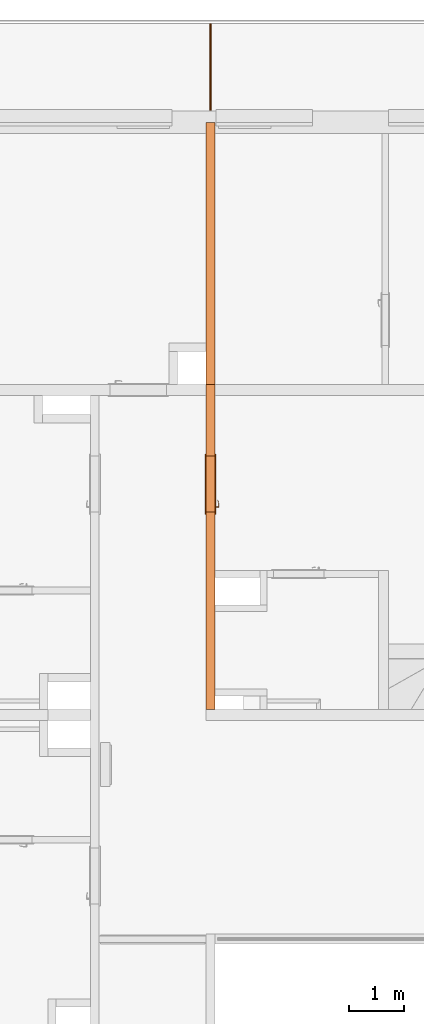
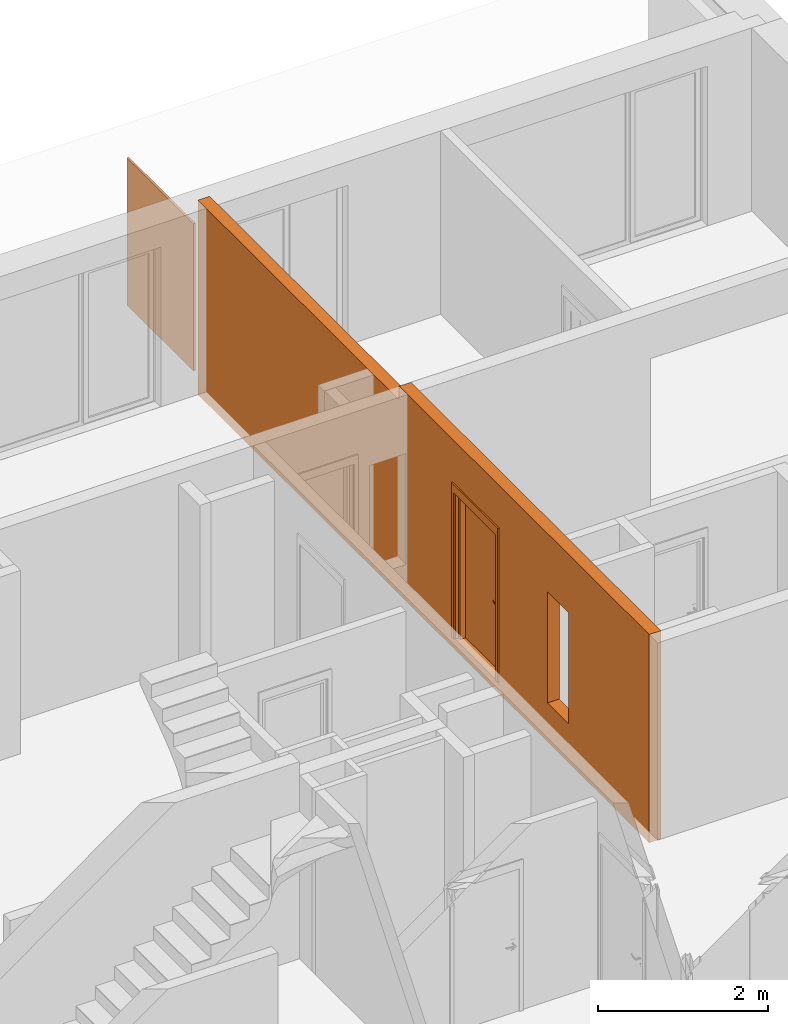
# One storey, part 29 of 61: 3 proxies, 2 openings.
"""IFC2X3 building model written with IfcOpenShell, lengths in millimetres."""

from ifc_helpers import new_model, entity, si_unit, converted_unit, derived_unit, money_unit, direction, frame, origin_with_axes, origin_2d_with_axis, place, context, subcontext, project, spatial, polyline, rectangle, outline, extrude, open_shell, faceted_brep, surface_model, source, transform, mapped, material, type_object, element, fill, save


model = new_model("IFC2X3")

# Units and contexts
model_context = context("Model", 3, precision=0.01, world=origin_with_axes(), true_north=direction((0.34421633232, 0.938890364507)))
body_context = subcontext(model_context, "Body", "Model", "MODEL_VIEW")
ifc_project = project(units=[si_unit("LENGTHUNIT", "METRE", prefix="MILLI"), si_unit("AREAUNIT", "SQUARE_METRE"), si_unit("VOLUMEUNIT", "CUBIC_METRE"), converted_unit("PLANEANGLEUNIT", "DEGREE", entity("IfcPlaneAngleMeasure", 0.0174532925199), si_unit("PLANEANGLEUNIT", "RADIAN"), dimensions=[0, 0, 0, 0, 0, 0, 0]), si_unit("SOLIDANGLEUNIT", "STERADIAN"), money_unit("USD"), converted_unit("TIMEUNIT", "Year", entity("IfcTimeMeasure", 31556926.0), si_unit("TIMEUNIT", "SECOND"), dimensions=[0, 0, 1, 0, 0, 0, 0]), si_unit("MASSUNIT", "GRAM", prefix="KILO"), si_unit("THERMODYNAMICTEMPERATUREUNIT", "DEGREE_CELSIUS"), si_unit("LUMINOUSINTENSITYUNIT", "LUMEN"), si_unit("ENERGYUNIT", "JOULE", prefix="MEGA"), derived_unit("THERMALCONDUCTANCEUNIT", [(si_unit("POWERUNIT", "WATT"), 1), (si_unit("LENGTHUNIT", "METRE"), -1), (si_unit("THERMODYNAMICTEMPERATUREUNIT", "KELVIN"), -1)]), derived_unit("SPECIFICHEATCAPACITYUNIT", [(si_unit("ENERGYUNIT", "JOULE"), 1), (si_unit("MASSUNIT", "GRAM", prefix="KILO"), -1), (si_unit("THERMODYNAMICTEMPERATUREUNIT", "KELVIN"), -1)]), derived_unit("MASSDENSITYUNIT", [(si_unit("MASSUNIT", "GRAM", prefix="KILO"), 1), (si_unit("VOLUMEUNIT", "CUBIC_METRE"), -1)])], contexts=[model_context])

# Site, building, storey
site_placement = place(None, origin_with_axes())
site = spatial("IfcSite", under=ifc_project, at=site_placement, Name="USTRONIE MORSKIE", CompositionType="ELEMENT")
building_placement = place(site_placement, origin_with_axes())
building = spatial("IfcBuilding", under=site, at=building_placement, Name="Budynek", CompositionType="ELEMENT")
storey_placement = place(building_placement, frame((0.0, 0.0, 13000.0), z_axis=(0.0, 0.0, 1.0), x_axis=(1.0, 0.0, 0.0)))
storey = spatial("IfcBuildingStorey", under=building, at=storey_placement, Name="PIĘTRO 4", CompositionType="ELEMENT", Elevation=13000.0)

# Proxies, openings
ifc_material_1 = material(Name="Beton konstrukcyjny B25")
building_element_proxy_type_1 = type_object("IfcBuildingElementProxyType", Name="Beton konstrukcyjny B25 160", PredefinedType="NOTDEFINED")
proxy_1_placement = place(storey_placement, frame((359617.920919, 749451.199036, -160.0), z_axis=(0.0, 0.0, 1.0), x_axis=(0.0, -1.0, 0.0)))
proxy_1 = element("IfcBuildingElementProxy", 1, at=proxy_1_placement, inside=storey, type_object=building_element_proxy_type_1, material=ifc_material_1, Name="SW-01", context=body_context, shape_type="Brep", body=[
    faceted_brep([(-100.0, -80.0, 2799.99999792), (0.0, -80.0, 2799.99999792), (0.0, 80.0, 2799.99999792), (-100.0, 80.0, 2799.99999792), (4650.0, -79.9973356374, 2799.99999792), (4200.00085142, -79.9973573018, 2799.99999792), (-100.0, -80.0, 0.0), (10550.0, -80.0, 0.0), (10550.0, -80.0, 3000.0), (4650.0, -79.9973356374, 2999.99999792), (4650.0, 80.0, 2799.99999792), (4650.0, 80.0, 2999.99999792), (10550.0, 80.0, 3000.0), (10550.0, 80.0, 0.0), (-100.0, 80.0, 0.0)], [[[0, 1, 2, 3]], [[4, 5, 1, 0, 6, 7, 8, 9]], [[10, 2, 1, 5, 4]], [[3, 2, 10, 11, 12, 13, 14]], [[14, 6, 0, 3]], [[13, 7, 6, 14]], [[8, 7, 13, 12]], [[12, 11, 9, 8]], [[4, 9, 11, 10]]]),
])
opening_1_placement = place(proxy_1_placement, frame((6460.00039682, 0.0, 160.0), z_axis=(0.0, 0.0, 1.0), x_axis=(1.0, 0.0, 0.0)))
opening_1 = element("IfcOpeningElement", 2, at=opening_1_placement, cuts=proxy_1, Name="Dw.1", context=body_context, shape_type="SweptSolid", body=[
    extrude(rectangle(XDim=1020.0, YDim=2120.0, at=origin_2d_with_axis()), frame((0.0, -160.0, 1060.0), z_axis=(0.0, -1.0, 0.0), x_axis=(-1.0, 0.0, 0.0)), (0.0, 0.0, -1.0), 480.0),
    extrude(rectangle(XDim=1094.0, YDim=2227.0, at=origin_2d_with_axis()), frame((0.0, -80.0, 1113.5), z_axis=(0.0, -1.0, 0.0), x_axis=(-1.0, 0.0, 0.0)), (0.0, 0.0, 1.0), 160.0),
    extrude(rectangle(XDim=1094.0, YDim=2227.0, at=origin_2d_with_axis()), frame((0.0, 80.0, 1113.5), z_axis=(0.0, 1.0, 0.0), x_axis=(-1.0, 0.0, 0.0)), (0.0, 0.0, 1.0), 160.0),
])
opening_2_placement = place(proxy_1_placement, frame((8400.01956701, 0.0, 560.0), z_axis=(0.0, 0.0, 1.0), x_axis=(1.0, 0.0, 0.0)))
element("IfcOpeningElement", 3, at=opening_2_placement, cuts=proxy_1, Name="R.01", context=body_context, shape_type="SweptSolid", body=[
    extrude(rectangle(XDim=500.001816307, YDim=1600.0, at=origin_2d_with_axis()), frame((0.0, -80.0, 800.0), z_axis=(0.0, 1.0, 0.0), x_axis=(1.0, 0.0, 0.0)), (0.0, 0.0, -1.0), 160.0),
    extrude(rectangle(XDim=500.001816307, YDim=1600.0, at=origin_2d_with_axis()), frame((0.0, -80.0, 800.0), z_axis=(0.0, -1.0, 0.0), x_axis=(1.0, 0.0, 0.0)), (0.0, 0.0, -1.0), 160.0),
])
building_element_proxy_type_2 = type_object("IfcBuildingElementProxyType", Name="Drzwi 23", PredefinedType="NOTDEFINED")
shared_shape = source(origin_with_axes(), body_context, "Body", "SurfaceModel", [
    faceted_brep([(510.0, -115.0, 0.0), (510.0, -160.0, 0.0), (485.0, -160.0, 0.0), (485.0, -115.0, 0.0), (510.0, -115.0, 2120.0), (510.0, -160.0, 2120.0), (485.0, -160.0, 2095.0), (485.0, -115.0, 2095.0)], [[[0, 1, 2, 3]], [[4, 5, 1, 0]], [[1, 5, 6, 2]], [[3, 2, 6, 7]], [[0, 3, 7, 4]], [[7, 6, 5, 4]]]),
    faceted_brep([(-510.0, -115.0, 2120.0), (-510.0, -160.0, 2120.0), (-485.0, -160.0, 2095.0), (-485.0, -115.0, 2095.0), (-510.0, -115.0, 0.0), (-510.0, -160.0, 0.0), (-485.0, -160.0, 0.0), (-485.0, -115.0, 0.0)], [[[0, 1, 2, 3]], [[4, 5, 1, 0]], [[1, 5, 6, 2]], [[3, 2, 6, 7]], [[0, 3, 7, 4]], [[7, 6, 5, 4]]]),
    faceted_brep([(485.0, -115.0, 2095.0), (485.0, -160.0, 2095.0), (-485.0, -160.0, 2095.0), (-485.0, -115.0, 2095.0), (510.0, -115.0, 2120.0), (510.0, -160.0, 2120.0), (-510.0, -160.0, 2120.0), (-510.0, -115.0, 2120.0)], [[[0, 1, 2, 3]], [[4, 5, 1, 0]], [[1, 5, 6, 2]], [[3, 2, 6, 7]], [[0, 3, 7, 4]], [[7, 6, 5, 4]]]),
    faceted_brep([(547.0, -179.0, 0.0), (497.0, -179.0, 0.0), (497.0, -160.0, 0.0), (547.0, -160.0, 0.0), (547.0, -179.0, 2227.0), (497.0, -179.0, 2107.0), (497.0, -160.0, 2107.0), (547.0, -160.0, 2227.0)], [[[0, 1, 2, 3]], [[0, 4, 5, 1]], [[1, 5, 6, 2]], [[3, 2, 6, 7]], [[4, 0, 3, 7]], [[5, 4, 7, 6]]]),
    faceted_brep([(-547.0, -179.0, 2227.0), (-497.0, -179.0, 2107.0), (-497.0, -160.0, 2107.0), (-547.0, -160.0, 2227.0), (-547.0, -179.0, 0.0), (-497.0, -179.0, 0.0), (-497.0, -160.0, 0.0), (-547.0, -160.0, 0.0)], [[[0, 1, 2, 3]], [[0, 4, 5, 1]], [[1, 5, 6, 2]], [[3, 2, 6, 7]], [[4, 0, 3, 7]], [[5, 4, 7, 6]]]),
    faceted_brep([(547.0, -179.0, 2227.0), (497.0, -179.0, 2107.0), (497.0, -160.0, 2107.0), (547.0, -160.0, 2227.0), (-547.0, -179.0, 2227.0), (-497.0, -179.0, 2107.0), (-497.0, -160.0, 2107.0), (-547.0, -160.0, 2227.0)], [[[0, 1, 2, 3]], [[0, 4, 5, 1]], [[1, 5, 6, 2]], [[3, 2, 6, 7]], [[4, 0, 3, 7]], [[5, 4, 7, 6]]]),
    faceted_brep([(547.0, 19.0, 0.0), (547.0, 0.0, 0.0), (497.0, 0.0, 0.0), (497.0, 19.0, 0.0), (547.0, 19.0, 2227.0), (547.0, 0.0, 2227.0), (497.0, 0.0, 2107.0), (497.0, 19.0, 2107.0)], [[[0, 1, 2, 3]], [[4, 5, 1, 0]], [[1, 5, 6, 2]], [[3, 2, 6, 7]], [[0, 3, 7, 4]], [[7, 6, 5, 4]]]),
    faceted_brep([(-547.0, 19.0, 2227.0), (-547.0, 0.0, 2227.0), (-497.0, 0.0, 2107.0), (-497.0, 19.0, 2107.0), (-547.0, 19.0, 0.0), (-547.0, 0.0, 0.0), (-497.0, 0.0, 0.0), (-497.0, 19.0, 0.0)], [[[0, 1, 2, 3]], [[4, 5, 1, 0]], [[1, 5, 6, 2]], [[3, 2, 6, 7]], [[0, 3, 7, 4]], [[7, 6, 5, 4]]]),
    faceted_brep([(547.0, 19.0, 2227.0), (547.0, 0.0, 2227.0), (497.0, 0.0, 2107.0), (497.0, 19.0, 2107.0), (-547.0, 19.0, 2227.0), (-547.0, 0.0, 2227.0), (-497.0, 0.0, 2107.0), (-497.0, 19.0, 2107.0)], [[[0, 1, 2, 3]], [[4, 5, 1, 0]], [[1, 5, 6, 2]], [[3, 2, 6, 7]], [[0, 3, 7, 4]], [[7, 6, 5, 4]]]),
    faceted_brep([(450.0, -40.0, 0.0), (450.0, -115.0, 0.0), (450.0, -115.0, 2050.0), (450.0, -40.0, 2050.0), (462.0, -40.0, 0.0), (462.0, 0.0, 0.0), (510.0, 0.0, 0.0), (510.0, -115.0, 0.0), (510.0, -115.0, 2050.0), (462.0, -40.0, 2050.0), (510.0, 0.0, 2050.0), (462.0, 0.0, 2050.0)], [[[0, 1, 2, 3]], [[4, 5, 6, 7, 1, 0]], [[1, 7, 8, 2]], [[9, 3, 2, 8, 10, 11]], [[9, 4, 0, 3]], [[11, 5, 4, 9]], [[11, 10, 6, 5]], [[6, 10, 8, 7]]]),
    faceted_brep([(-462.0, -40.0, 2050.0), (-462.0, 0.0, 2050.0), (-510.0, 0.0, 2050.0), (-510.0, -115.0, 2050.0), (-450.0, -115.0, 2050.0), (-450.0, -40.0, 2050.0), (-462.0, -40.0, 0.0), (-462.0, 0.0, 0.0), (-510.0, 0.0, 0.0), (-510.0, -115.0, 0.0), (-450.0, -115.0, 0.0), (-450.0, -40.0, 0.0)], [[[0, 1, 2, 3, 4, 5]], [[0, 6, 7, 1]], [[7, 8, 2, 1]], [[2, 8, 9, 3]], [[3, 9, 10, 4]], [[5, 4, 10, 11]], [[5, 11, 6, 0]], [[6, 11, 10, 9, 8, 7]]]),
    faceted_brep([(462.0, 0.0, 2062.0), (-462.0, 0.0, 2062.0), (-462.0, 0.0, 2050.0), (-510.0, 0.0, 2050.0), (-510.0, 0.0, 2120.0), (510.0, 0.0, 2120.0), (510.0, 0.0, 2050.0), (462.0, 0.0, 2050.0), (462.0, -40.0, 2062.0), (-462.0, -40.0, 2062.0), (-462.0, -40.0, 2050.0), (-450.0, -40.0, 2050.0), (-450.0, -115.0, 2050.0), (-510.0, -115.0, 2050.0), (-510.0, -115.0, 2120.0), (510.0, -115.0, 2120.0), (510.0, -115.0, 2050.0), (462.0, -40.0, 2050.0), (450.0, -115.0, 2050.0), (450.0, -40.0, 2050.0)], [[[0, 1, 2, 3, 4, 5, 6, 7]], [[0, 8, 9, 1]], [[1, 9, 10, 2]], [[10, 11, 12, 13, 3, 2]], [[4, 3, 13, 14]], [[5, 4, 14, 15]], [[6, 5, 15, 16]], [[17, 7, 6, 16, 18, 19]], [[7, 17, 8, 0]], [[10, 9, 8, 17, 19, 11]], [[19, 18, 12, 11]], [[12, 18, 16, 15, 14, 13]]]),
    faceted_brep([(440.5, -40.0, 1060.0), (383.5, -40.0, 1060.0), (383.5, -43.0, 1060.0), (440.5, -43.0, 1060.0), (440.5, -40.0, 870.0), (383.5, -40.0, 870.0), (383.5, -43.0, 870.0), (440.5, -43.0, 870.0)], [[[0, 1, 2, 3]], [[0, 4, 5, 1]], [[1, 5, 6, 2]], [[3, 2, 6, 7]], [[4, 0, 3, 7]], [[5, 4, 7, 6]]]),
    faceted_brep([(412.0, -104.0, 990.0), (417.0, -104.0, 991.339745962), (417.0, -111.0, 991.339745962), (412.0, -111.0, 990.0), (387.0, -104.0, 990.0), (387.0, -104.0, 1010.0), (412.0, -104.0, 1010.0), (417.0, -104.0, 1008.66025404), (420.660254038, -104.0, 1005.0), (422.0, -104.0, 1000.0), (420.660254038, -104.0, 995.0), (420.660254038, -111.0, 995.0), (422.0, -111.0, 1000.0), (420.660254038, -111.0, 1005.0), (417.0, -111.0, 1008.66025404), (412.0, -111.0, 1010.0), (387.0, -111.0, 1010.0), (387.0, -111.0, 990.0)], [[[0, 1, 2, 3]], [[0, 4, 5, 6, 7, 8, 9, 10, 1]], [[1, 10, 11, 2]], [[3, 2, 11, 12, 13, 14, 15, 16, 17]], [[4, 0, 3, 17]], [[5, 4, 17, 16]], [[6, 5, 16, 15]], [[7, 6, 15, 14]], [[8, 7, 14, 13]], [[9, 8, 13, 12]], [[10, 9, 12, 11]]]),
    surface_model("IfcShellBasedSurfaceModel", [(387.0, -104.0, 1010.0), (373.901717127, -104.0, 1009.60730092), (373.596090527, -111.0, 1009.60730092), (387.0, -104.0, 990.0), (373.901717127, -104.0, 990.392699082), (346.890283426, -108.663544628, 1008.82190275), (387.0, -111.0, 1010.0), (387.0, -111.0, 990.0), (347.804837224, -101.716818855, 991.178097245), (347.804837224, -101.716818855, 1008.82190275), (346.890283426, -108.663544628, 991.178097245), (373.596090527, -111.0, 990.392699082), (322.006256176, -97.1678329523, 991.963495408), (322.006256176, -97.1678329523, 1008.03650459), (320.489735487, -104.008415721, 1008.03650459), (320.489735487, -104.008415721, 991.963495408), (296.702316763, -90.3876628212, 992.748893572), (296.702316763, -90.3876628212, 1007.25110643), (294.59537082, -97.0700416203, 1007.25110643), (294.59537082, -97.0700416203, 992.748893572), (288.829442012, -87.5221707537, 993.0), (288.829442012, -87.5221707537, 1007.0), (286.538795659, -94.1376880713, 1007.0), (286.538795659, -94.1376880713, 993.0)], [open_shell([[[0, 1, 2]], [[0, 3, 4, 1]], [[1, 5, 2]], [[0, 2, 6]], [[4, 3, 7]], [[1, 4, 8, 9]], [[1, 9, 5]], [[2, 5, 10, 11]], [[6, 2, 11, 7]], [[4, 7, 11]], [[8, 4, 11]], [[9, 8, 12, 13]], [[9, 14, 5]], [[5, 14, 15, 10]], [[8, 11, 10]], [[12, 8, 10]], [[13, 12, 16, 17]], [[9, 13, 14]], [[14, 18, 19, 15]], [[12, 10, 15]], [[16, 12, 15]], [[17, 16, 20, 21]], [[13, 17, 18]], [[13, 18, 14]], [[18, 22, 23, 19]], [[16, 15, 19]], [[20, 16, 19]], [[21, 20, 23, 22]], [[17, 21, 22]], [[17, 22, 18]], [[20, 19, 23]]])]),
    faceted_brep([(401.607695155, -53.0, 994.0), (400.0, -53.0, 1000.0), (399.0, -43.0, 1000.0), (400.741669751, -43.0, 993.5), (406.0, -53.0, 989.607695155), (412.0, -53.0, 988.0), (418.0, -53.0, 989.607695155), (422.392304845, -53.0, 994.0), (424.0, -53.0, 1000.0), (422.392304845, -53.0, 1006.0), (418.0, -53.0, 1010.39230485), (412.0, -53.0, 1012.0), (406.0, -53.0, 1010.39230485), (401.607695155, -53.0, 1006.0), (400.741669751, -43.0, 1006.5), (405.5, -43.0, 1011.25833025), (412.0, -43.0, 1013.0), (418.5, -43.0, 1011.25833025), (423.258330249, -43.0, 1006.5), (425.0, -43.0, 1000.0), (423.258330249, -43.0, 993.5), (418.5, -43.0, 988.741669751), (412.0, -43.0, 987.0), (405.5, -43.0, 988.741669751)], [[[0, 1, 2, 3]], [[1, 0, 4, 5, 6, 7, 8, 9, 10, 11, 12, 13]], [[1, 13, 14, 2]], [[2, 14, 15, 16, 17, 18, 19, 20, 21, 22, 23, 3]], [[4, 0, 3, 23]], [[5, 4, 23, 22]], [[6, 5, 22, 21]], [[7, 6, 21, 20]], [[8, 7, 20, 19]], [[9, 8, 19, 18]], [[10, 9, 18, 17]], [[11, 10, 17, 16]], [[12, 11, 16, 15]], [[13, 12, 15, 14]]]),
    faceted_brep([(394.679491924, -47.0, 895.0), (392.0, -47.0, 905.0), (390.0, -43.0, 905.0), (392.947441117, -43.0, 894.0), (402.0, -47.0, 887.679491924), (412.0, -47.0, 885.0), (422.0, -47.0, 887.679491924), (429.320508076, -47.0, 895.0), (432.0, -47.0, 905.0), (429.320508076, -47.0, 915.0), (422.0, -47.0, 922.320508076), (412.0, -47.0, 925.0), (402.0, -47.0, 922.320508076), (394.679491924, -47.0, 915.0), (392.947441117, -43.0, 916.0), (401.0, -43.0, 924.052558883), (412.0, -43.0, 927.0), (423.0, -43.0, 924.052558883), (431.052558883, -43.0, 916.0), (434.0, -43.0, 905.0), (431.052558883, -43.0, 894.0), (423.0, -43.0, 885.947441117), (412.0, -43.0, 883.0), (401.0, -43.0, 885.947441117)], [[[0, 1, 2, 3]], [[1, 0, 4, 5, 6, 7, 8, 9, 10, 11, 12, 13]], [[1, 13, 14, 2]], [[2, 14, 15, 16, 17, 18, 19, 20, 21, 22, 23, 3]], [[4, 0, 3, 23]], [[5, 4, 23, 22]], [[6, 5, 22, 21]], [[7, 6, 21, 20]], [[8, 7, 20, 19]], [[9, 8, 19, 18]], [[10, 9, 18, 17]], [[11, 10, 17, 16]], [[12, 11, 16, 15]], [[13, 12, 15, 14]]]),
    faceted_brep([(407.050252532, -49.0, 909.050252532), (405.0, -49.0, 914.0), (404.0, -47.0, 914.0), (406.343145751, -47.0, 908.343145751), (412.0, -49.0, 907.0), (416.949747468, -49.0, 909.050252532), (419.0, -49.0, 914.0), (416.949747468, -49.0, 918.949747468), (412.0, -49.0, 921.0), (407.050252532, -49.0, 918.949747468), (406.343145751, -47.0, 919.656854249), (412.0, -47.0, 922.0), (417.656854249, -47.0, 919.656854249), (420.0, -47.0, 914.0), (417.656854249, -47.0, 908.343145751), (412.0, -47.0, 906.0)], [[[0, 1, 2, 3]], [[1, 0, 4, 5, 6, 7, 8, 9]], [[1, 9, 10, 2]], [[2, 10, 11, 12, 13, 14, 15, 3]], [[4, 0, 3, 15]], [[5, 4, 15, 14]], [[6, 5, 14, 13]], [[7, 6, 13, 12]], [[8, 7, 12, 11]], [[9, 8, 11, 10]]]),
    faceted_brep([(412.0, -53.0, 1010.0), (407.0, -53.0, 1008.66025404), (407.0, -104.0, 1008.66025404), (412.0, -104.0, 1010.0), (417.0, -53.0, 1008.66025404), (420.660254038, -53.0, 1005.0), (422.0, -53.0, 1000.0), (420.660254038, -53.0, 995.0), (417.0, -53.0, 991.339745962), (412.0, -53.0, 990.0), (407.0, -53.0, 991.339745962), (403.339745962, -53.0, 995.0), (402.0, -53.0, 1000.0), (403.339745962, -53.0, 1005.0), (403.339745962, -104.0, 1005.0), (402.0, -104.0, 1000.0), (403.339745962, -104.0, 995.0), (407.0, -104.0, 991.339745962), (412.0, -104.0, 990.0), (417.0, -104.0, 991.339745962), (420.660254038, -104.0, 995.0), (422.0, -104.0, 1000.0), (420.660254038, -104.0, 1005.0), (417.0, -104.0, 1008.66025404)], [[[0, 1, 2, 3]], [[0, 4, 5, 6, 7, 8, 9, 10, 11, 12, 13, 1]], [[1, 13, 14, 2]], [[3, 2, 14, 15, 16, 17, 18, 19, 20, 21, 22, 23]], [[4, 0, 3, 23]], [[5, 4, 23, 22]], [[6, 5, 22, 21]], [[7, 6, 21, 20]], [[8, 7, 20, 19]], [[9, 8, 19, 18]], [[10, 9, 18, 17]], [[11, 10, 17, 16]], [[12, 11, 16, 15]], [[13, 12, 15, 14]]]),
    faceted_brep([(440.5, 0.0, 1060.0), (440.5, 3.0, 1060.0), (383.5, 3.0, 1060.0), (383.5, 0.0, 1060.0), (440.5, 0.0, 870.0), (440.5, 3.0, 870.0), (383.5, 3.0, 870.0), (383.5, 0.0, 870.0)], [[[0, 1, 2, 3]], [[4, 5, 1, 0]], [[1, 5, 6, 2]], [[3, 2, 6, 7]], [[0, 3, 7, 4]], [[7, 6, 5, 4]]]),
    faceted_brep([(412.0, 64.0, 990.0), (412.0, 71.0, 990.0), (417.0, 71.0, 991.339745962), (417.0, 64.0, 991.339745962), (387.0, 64.0, 990.0), (387.0, 71.0, 990.0), (387.0, 71.0, 1010.0), (412.0, 71.0, 1010.0), (417.0, 71.0, 1008.66025404), (420.660254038, 71.0, 1005.0), (422.0, 71.0, 1000.0), (420.660254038, 71.0, 995.0), (420.660254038, 64.0, 995.0), (422.0, 64.0, 1000.0), (420.660254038, 64.0, 1005.0), (417.0, 64.0, 1008.66025404), (412.0, 64.0, 1010.0), (387.0, 64.0, 1010.0)], [[[0, 1, 2, 3]], [[4, 5, 1, 0]], [[1, 5, 6, 7, 8, 9, 10, 11, 2]], [[3, 2, 11, 12]], [[0, 3, 12, 13, 14, 15, 16, 17, 4]], [[17, 6, 5, 4]], [[16, 7, 6, 17]], [[15, 8, 7, 16]], [[14, 9, 8, 15]], [[13, 10, 9, 14]], [[12, 11, 10, 13]]]),
    surface_model("IfcShellBasedSurfaceModel", [(387.0, 64.0, 1010.0), (373.596090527, 71.0, 1009.60730092), (373.901717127, 64.0, 1009.60730092), (387.0, 71.0, 1010.0), (346.890283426, 68.6635446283, 1008.82190275), (373.901717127, 64.0, 990.392699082), (387.0, 64.0, 990.0), (387.0, 71.0, 990.0), (373.596090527, 71.0, 990.392699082), (346.890283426, 68.6635446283, 991.178097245), (347.804837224, 61.716818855, 1008.82190275), (347.804837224, 61.716818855, 991.178097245), (320.489735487, 64.0084157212, 991.963495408), (320.489735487, 64.0084157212, 1008.03650459), (322.006256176, 57.1678329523, 1008.03650459), (322.006256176, 57.1678329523, 991.963495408), (294.59537082, 57.0700416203, 992.748893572), (294.59537082, 57.0700416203, 1007.25110643), (296.702316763, 50.3876628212, 1007.25110643), (296.702316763, 50.3876628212, 992.748893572), (286.538795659, 54.1376880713, 993.0), (286.538795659, 54.1376880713, 1007.0), (288.829442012, 47.5221707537, 1007.0), (288.829442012, 47.5221707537, 993.0)], [open_shell([[[0, 1, 2]], [[0, 3, 1]], [[2, 1, 4]], [[0, 2, 5, 6]], [[3, 7, 8, 1]], [[1, 8, 9, 4]], [[2, 4, 10]], [[2, 10, 11, 5]], [[5, 7, 6]], [[5, 8, 7]], [[11, 9, 8]], [[4, 9, 12, 13]], [[10, 4, 13]], [[10, 14, 15, 11]], [[11, 8, 5]], [[15, 9, 11]], [[15, 12, 9]], [[13, 12, 16, 17]], [[10, 13, 14]], [[14, 18, 19, 15]], [[19, 12, 15]], [[19, 16, 12]], [[17, 16, 20, 21]], [[14, 13, 17]], [[14, 17, 18]], [[18, 22, 23, 19]], [[23, 16, 19]], [[23, 20, 16]], [[22, 21, 20, 23]], [[18, 17, 21]], [[18, 21, 22]]])]),
    faceted_brep([(401.607695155, 13.0, 994.0), (400.741669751, 3.0, 993.5), (399.0, 3.0, 1000.0), (400.0, 13.0, 1000.0), (406.0, 13.0, 989.607695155), (405.5, 3.0, 988.741669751), (412.0, 3.0, 987.0), (418.5, 3.0, 988.741669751), (423.258330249, 3.0, 993.5), (425.0, 3.0, 1000.0), (423.258330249, 3.0, 1006.5), (418.5, 3.0, 1011.25833025), (412.0, 3.0, 1013.0), (405.5, 3.0, 1011.25833025), (400.741669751, 3.0, 1006.5), (401.607695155, 13.0, 1006.0), (406.0, 13.0, 1010.39230485), (412.0, 13.0, 1012.0), (418.0, 13.0, 1010.39230485), (422.392304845, 13.0, 1006.0), (424.0, 13.0, 1000.0), (422.392304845, 13.0, 994.0), (418.0, 13.0, 989.607695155), (412.0, 13.0, 988.0)], [[[0, 1, 2, 3]], [[4, 5, 1, 0]], [[2, 1, 5, 6, 7, 8, 9, 10, 11, 12, 13, 14]], [[3, 2, 14, 15]], [[3, 15, 16, 17, 18, 19, 20, 21, 22, 23, 4, 0]], [[23, 6, 5, 4]], [[22, 7, 6, 23]], [[21, 8, 7, 22]], [[20, 9, 8, 21]], [[19, 10, 9, 20]], [[18, 11, 10, 19]], [[17, 12, 11, 18]], [[16, 13, 12, 17]], [[15, 14, 13, 16]]]),
    faceted_brep([(394.679491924, 7.0, 895.0), (392.947441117, 3.0, 894.0), (390.0, 3.0, 905.0), (392.0, 7.0, 905.0), (402.0, 7.0, 887.679491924), (401.0, 3.0, 885.947441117), (412.0, 3.0, 883.0), (423.0, 3.0, 885.947441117), (431.052558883, 3.0, 894.0), (434.0, 3.0, 905.0), (431.052558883, 3.0, 916.0), (423.0, 3.0, 924.052558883), (412.0, 3.0, 927.0), (401.0, 3.0, 924.052558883), (392.947441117, 3.0, 916.0), (394.679491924, 7.0, 915.0), (402.0, 7.0, 922.320508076), (412.0, 7.0, 925.0), (422.0, 7.0, 922.320508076), (429.320508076, 7.0, 915.0), (432.0, 7.0, 905.0), (429.320508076, 7.0, 895.0), (422.0, 7.0, 887.679491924), (412.0, 7.0, 885.0)], [[[0, 1, 2, 3]], [[4, 5, 1, 0]], [[2, 1, 5, 6, 7, 8, 9, 10, 11, 12, 13, 14]], [[3, 2, 14, 15]], [[3, 15, 16, 17, 18, 19, 20, 21, 22, 23, 4, 0]], [[23, 6, 5, 4]], [[22, 7, 6, 23]], [[21, 8, 7, 22]], [[20, 9, 8, 21]], [[19, 10, 9, 20]], [[18, 11, 10, 19]], [[17, 12, 11, 18]], [[16, 13, 12, 17]], [[15, 14, 13, 16]]]),
    faceted_brep([(407.050252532, 9.0, 909.050252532), (406.343145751, 7.0, 908.343145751), (404.0, 7.0, 914.0), (405.0, 9.0, 914.0), (412.0, 9.0, 907.0), (412.0, 7.0, 906.0), (417.656854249, 7.0, 908.343145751), (420.0, 7.0, 914.0), (417.656854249, 7.0, 919.656854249), (412.0, 7.0, 922.0), (406.343145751, 7.0, 919.656854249), (407.050252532, 9.0, 918.949747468), (412.0, 9.0, 921.0), (416.949747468, 9.0, 918.949747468), (419.0, 9.0, 914.0), (416.949747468, 9.0, 909.050252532)], [[[0, 1, 2, 3]], [[4, 5, 1, 0]], [[2, 1, 5, 6, 7, 8, 9, 10]], [[3, 2, 10, 11]], [[3, 11, 12, 13, 14, 15, 4, 0]], [[15, 6, 5, 4]], [[14, 7, 6, 15]], [[13, 8, 7, 14]], [[12, 9, 8, 13]], [[11, 10, 9, 12]]]),
    faceted_brep([(412.0, 13.0, 1010.0), (412.0, 64.0, 1010.0), (407.0, 64.0, 1008.66025404), (407.0, 13.0, 1008.66025404), (417.0, 13.0, 1008.66025404), (417.0, 64.0, 1008.66025404), (420.660254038, 64.0, 1005.0), (422.0, 64.0, 1000.0), (420.660254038, 64.0, 995.0), (417.0, 64.0, 991.339745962), (412.0, 64.0, 990.0), (407.0, 64.0, 991.339745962), (403.339745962, 64.0, 995.0), (402.0, 64.0, 1000.0), (403.339745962, 64.0, 1005.0), (403.339745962, 13.0, 1005.0), (402.0, 13.0, 1000.0), (403.339745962, 13.0, 995.0), (407.0, 13.0, 991.339745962), (412.0, 13.0, 990.0), (417.0, 13.0, 991.339745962), (420.660254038, 13.0, 995.0), (422.0, 13.0, 1000.0), (420.660254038, 13.0, 1005.0)], [[[0, 1, 2, 3]], [[4, 5, 1, 0]], [[1, 5, 6, 7, 8, 9, 10, 11, 12, 13, 14, 2]], [[3, 2, 14, 15]], [[0, 3, 15, 16, 17, 18, 19, 20, 21, 22, 23, 4]], [[23, 6, 5, 4]], [[22, 7, 6, 23]], [[21, 8, 7, 22]], [[20, 9, 8, 21]], [[19, 10, 9, 20]], [[18, 11, 10, 19]], [[17, 12, 11, 18]], [[16, 13, 12, 17]], [[15, 14, 13, 16]]]),
    faceted_brep([(-462.0, 0.0, 0.0), (462.0, 0.0, 0.0), (462.0, -40.0, 0.0), (-462.0, -40.0, 0.0), (-462.0, 0.0, 2062.0), (462.0, 0.0, 2062.0), (462.0, -40.0, 2062.0), (-462.0, -40.0, 2062.0)], [[[0, 1, 2, 3]], [[0, 4, 5, 1]], [[1, 5, 6, 2]], [[3, 2, 6, 7]], [[4, 0, 3, 7]], [[5, 4, 7, 6]]]),
])
proxy_2_placement = place(opening_1_placement, frame((-450.0, 0.0, 0.0), z_axis=(0.0, 0.0, 1.0), x_axis=(1.0, 0.0, 0.0)))
proxy_2 = element("IfcBuildingElementProxy", 4, at=proxy_2_placement, inside=storey, type_object=building_element_proxy_type_2, Name="Dw.1", context=body_context, shape_type="MappedRepresentation", body=[
    mapped(shared_shape, transform((450.0, 80.0, 0.0))),
])
fill(opening_1, proxy_2)

# Proxy
ifc_material_2 = material(Name="Woda")
building_element_proxy_type_3 = type_object("IfcBuildingElementProxyType", Name="Woda 30", PredefinedType="NOTDEFINED")
proxy_3_placement = place(storey_placement, frame((359617.920897, 749771.199036, 20.0), z_axis=(0.0, 0.0, 1.0), x_axis=(0.0, 1.0, 0.0)))
element("IfcBuildingElementProxy", 5, at=proxy_3_placement, inside=storey, type_object=building_element_proxy_type_3, material=ifc_material_2, Name="Œciana-007", context=body_context, shape_type="SweptSolid", body=[
    extrude(outline(polyline([(0.0, -15.0), (1569.98576119, -15.0), (1569.98576119, 15.0), (0.0, 15.0), (0.0, -15.0)])), origin_with_axes(), (0.0, 0.0, 1.0), 2120.0),
])

save(model, "model.ifc")
